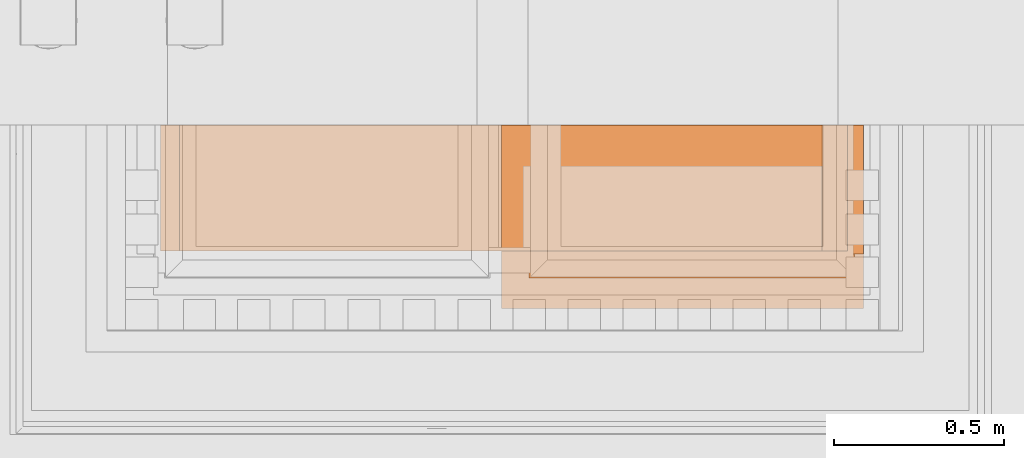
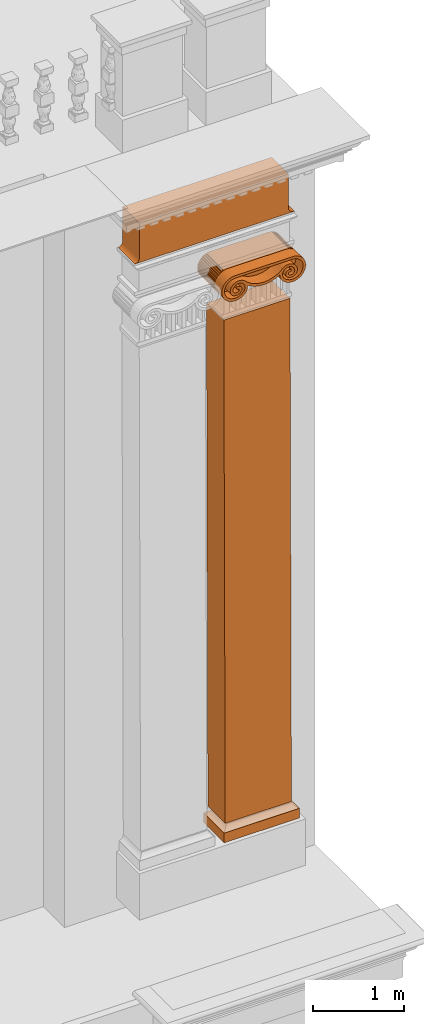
# One storey, part 13 of 44: 5 proxies.
"""IFC2X3 building model written with IfcOpenShell, lengths in metres."""

from ifc_helpers import new_model, entity, si_unit, converted_unit, derived_unit, direction, frame, frame_2d, origin, place, context, subcontext, project, spatial, polyline, circle_curve, parameter, trimmed, segment, composite_curve, rectangle, outline, extrude, material, element, save


model = new_model("IFC2X3")

# Units and contexts
model_context = context("Model", 3, precision=1e-05, world=origin(), true_north=direction((6.12303176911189e-17, 1.0)))
body_context = subcontext(model_context, "Body", "Model", "MODEL_VIEW")
ifc_project = project(units=[si_unit("LENGTHUNIT", "METRE"), si_unit("AREAUNIT", "SQUARE_METRE"), si_unit("VOLUMEUNIT", "CUBIC_METRE"), converted_unit("PLANEANGLEUNIT", "DEGREE", entity("IfcRatioMeasure", 0.0174532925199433), si_unit("PLANEANGLEUNIT", "RADIAN"), dimensions=[0, 0, 0, 0, 0, 0, 0]), si_unit("MASSUNIT", "GRAM", prefix="KILO"), derived_unit("MASSDENSITYUNIT", [(si_unit("MASSUNIT", "GRAM", prefix="KILO"), 1), (si_unit("LENGTHUNIT", "METRE"), -3)]), si_unit("TIMEUNIT", "SECOND"), si_unit("FREQUENCYUNIT", "HERTZ"), si_unit("THERMODYNAMICTEMPERATUREUNIT", "DEGREE_CELSIUS"), derived_unit("THERMALTRANSMITTANCEUNIT", [(si_unit("MASSUNIT", "GRAM", prefix="KILO"), 1), (si_unit("THERMODYNAMICTEMPERATUREUNIT", "KELVIN"), -1), (si_unit("TIMEUNIT", "SECOND"), -3)]), derived_unit("VOLUMETRICFLOWRATEUNIT", [(si_unit("LENGTHUNIT", "METRE"), 3), (si_unit("TIMEUNIT", "SECOND"), -1)]), si_unit("ELECTRICCURRENTUNIT", "AMPERE"), si_unit("ELECTRICVOLTAGEUNIT", "VOLT"), si_unit("POWERUNIT", "WATT"), si_unit("FORCEUNIT", "NEWTON", prefix="KILO"), si_unit("ILLUMINANCEUNIT", "LUX"), si_unit("LUMINOUSFLUXUNIT", "LUMEN"), si_unit("LUMINOUSINTENSITYUNIT", "CANDELA"), derived_unit("USERDEFINED", [(si_unit("MASSUNIT", "GRAM", prefix="KILO"), -1), (si_unit("LENGTHUNIT", "METRE"), -2), (si_unit("TIMEUNIT", "SECOND"), 3), (si_unit("LUMINOUSFLUXUNIT", "LUMEN"), 1)]), derived_unit("LINEARVELOCITYUNIT", [(si_unit("LENGTHUNIT", "METRE"), 1), (si_unit("TIMEUNIT", "SECOND"), -1)]), si_unit("PRESSUREUNIT", "PASCAL"), derived_unit("USERDEFINED", [(si_unit("LENGTHUNIT", "METRE"), -2), (si_unit("MASSUNIT", "GRAM", prefix="KILO"), 1), (si_unit("TIMEUNIT", "SECOND"), -2)])], contexts=[model_context])

# Site, building, storey
site_placement = place(None, origin())
site = spatial("IfcSite", under=ifc_project, at=site_placement, Name="Default", CompositionType="ELEMENT")
building_placement = place(site_placement, origin())
building = spatial("IfcBuilding", under=site, at=building_placement, CompositionType="ELEMENT")
storey_placement = place(building_placement, origin())
storey = spatial("IfcBuildingStorey", under=building, at=storey_placement, Name="Livello 1", CompositionType="ELEMENT", Elevation=0.0)

# Proxies
ifc_material_1 = material(Name="Travertino")
proxy_1_placement = place(storey_placement, frame((10.4175083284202, 0.723372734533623, 21.288288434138)))
element("IfcBuildingElementProxy", 1, at=proxy_1_placement, inside=storey, material=ifc_material_1, Name="Stratigrafia", context=body_context, shape_type="SweptSolid", body=[
    extrude(outline(composite_curve([segment(trimmed(circle_curve(frame_2d((0.0787255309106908, -0.360085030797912), x_axis=(1.0, 0.0)), 0.16781941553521), [parameter(138.334994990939)], [parameter(7.37888686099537e-11)], True, "PARAMETER"), True, "CONTINUOUS"), segment(polyline([(0.246544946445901, -0.360085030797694), (0.201674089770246, 0.387005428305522)]), True, "CONTINUOUS"), segment(trimmed(circle_curve(frame_2d((0.0350610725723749, 0.366919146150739), x_axis=(0.992811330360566, 0.119689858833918)), 0.16781941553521), [parameter(359.999999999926)], [parameter(221.665005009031)], True, "PARAMETER"), True, "CONTINUOUS"), segment(trimmed(circle_curve(frame_2d((0.414185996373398, 0.768509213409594), x_axis=(-0.680862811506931, -0.732410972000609)), 0.720026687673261), [parameter(1.57246623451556e-11)], [parameter(0.524781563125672)], True, "PARAMETER"), True, "CONTINUOUS"), segment(trimmed(circle_curve(frame_2d((0.0654093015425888, 0.385758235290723), x_axis=(-0.675623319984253, -0.737246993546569)), 0.202201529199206), [parameter(5.00746529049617e-11)], [parameter(2.78712703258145)], True, "PARAMETER"), True, "CONTINUOUS"), segment(trimmed(circle_curve(frame_2d((0.00343027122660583, 0.311114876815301), x_axis=(-0.63911629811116, -0.76911010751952)), 0.105180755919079), [parameter(359.999999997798)], [parameter(5.29737023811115)], True, "PARAMETER"), True, "CONTINUOUS"), segment(trimmed(circle_curve(frame_2d((-0.012299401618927, 0.288731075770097), x_axis=(-0.561992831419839, -0.827142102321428)), 0.0778253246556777), [parameter(3.11948803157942e-10)], [parameter(11.8444704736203)], True, "PARAMETER"), True, "CONTINUOUS"), segment(trimmed(circle_curve(frame_2d((-0.00650885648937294, 0.302109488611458), x_axis=(-0.382936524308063, -0.923774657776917)), 0.0924010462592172), [parameter(5.64917400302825e-10)], [parameter(4.23396444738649)], True, "PARAMETER"), True, "CONTINUOUS"), segment(trimmed(circle_curve(frame_2d((0.0100793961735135, 0.315934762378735), x_axis=(0.273943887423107, 0.961745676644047)), 0.111318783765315), [parameter(171.73216175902)], [parameter(203.761085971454)], True, "PARAMETER"), True, "CONTINUOUS"), segment(trimmed(circle_curve(frame_2d((0.351764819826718, 0.0211272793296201), x_axis=(-0.80538962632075, -0.592745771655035)), 0.375004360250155), [parameter(294.170004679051)], [parameter(359.999999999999)], True, "PARAMETER"), True, "CONTINUOUS"), segment(trimmed(circle_curve(frame_2d((0.0478211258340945, -0.312457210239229), x_axis=(0.387085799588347, -0.922043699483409)), 0.111318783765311), [parameter(156.238914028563)], [parameter(188.26783824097)], True, "PARAMETER"), True, "CONTINUOUS"), segment(trimmed(circle_curve(frame_2d((0.0296973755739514, -0.300716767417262), x_axis=(-0.49075017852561, 0.871300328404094)), 0.0924010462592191), [parameter(355.766035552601)], [parameter(359.999999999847)], True, "PARAMETER"), True, "CONTINUOUS"), segment(trimmed(circle_curve(frame_2d((0.0223471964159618, -0.288127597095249), x_axis=(-0.656953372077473, 0.753931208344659)), 0.0778253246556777), [parameter(348.155529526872)], [parameter(359.999999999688)], True, "PARAMETER"), True, "CONTINUOUS"), segment(trimmed(circle_curve(frame_2d((0.0406429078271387, -0.308467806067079), x_axis=(-0.726576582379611, 0.687085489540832)), 0.105180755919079), [parameter(354.702629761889)], [parameter(2.20252139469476e-09)], True, "PARAMETER"), True, "CONTINUOUS"), segment(trimmed(circle_curve(frame_2d((0.11111044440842, -0.375156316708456), x_axis=(-0.759007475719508, 0.651081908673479)), 0.202201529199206), [parameter(357.21287296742)], [parameter(359.999999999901)], True, "PARAMETER"), True, "CONTINUOUS"), segment(trimmed(circle_curve(frame_2d((0.503191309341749, -0.713410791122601), x_axis=(-0.763630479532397, 0.645653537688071)), 0.72002668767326), [parameter(359.475218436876)], [parameter(359.999999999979)], True, "PARAMETER"), True, "CONTINUOUS")], self_intersect=False), holes=[composite_curve([segment(trimmed(circle_curve(frame_2d((0.0296569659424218, -0.266373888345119), x_axis=(0.295331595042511, -0.955394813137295)), 0.160844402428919), [parameter(359.999999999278)], [parameter(5.20756886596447)], True, "PARAMETER"), True, "CONTINUOUS"), segment(trimmed(circle_curve(frame_2d((0.0478211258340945, -0.312457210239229), x_axis=(0.387085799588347, -0.922043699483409)), 0.111318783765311), [parameter(359.999999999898)], [parameter(121.742469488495)], True, "PARAMETER"), True, "CONTINUOUS"), segment(trimmed(circle_curve(frame_2d((0.351764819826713, 0.0211272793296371), x_axis=(-0.701786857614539, -0.712386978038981)), 0.341023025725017), [parameter(357.930960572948)], [parameter(1.17553301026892e-11)], True, "PARAMETER"), False, "CONTINUOUS"), segment(trimmed(circle_curve(frame_2d((0.351764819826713, 0.0211272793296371), x_axis=(-0.701786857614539, -0.712386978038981)), 0.341023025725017), [parameter(276.015284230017)], [parameter(357.930960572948)], True, "PARAMETER"), False, "CONTINUOUS"), segment(trimmed(circle_curve(frame_2d((0.0100793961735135, 0.315934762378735), x_axis=(0.273943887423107, 0.961745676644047)), 0.111318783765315), [parameter(238.257530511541)], [parameter(1.04576637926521e-10)], True, "PARAMETER"), True, "CONTINUOUS"), segment(trimmed(circle_curve(frame_2d((-0.00243848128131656, 0.268008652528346), x_axis=(0.178857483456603, 0.983874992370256)), 0.160844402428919), [parameter(354.792431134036)], [parameter(3.45942571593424e-10)], True, "PARAMETER"), True, "CONTINUOUS"), segment(trimmed(circle_curve(frame_2d((0.0120654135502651, 0.348551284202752), x_axis=(-0.97200284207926, 0.234969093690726)), 0.0790065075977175), [parameter(273.188220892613)], [parameter(2.02537722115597e-11)], True, "PARAMETER"), True, "CONTINUOUS"), segment(trimmed(circle_curve(frame_2d((0.0219940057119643, 0.35202260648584), x_axis=(-0.899948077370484, -0.435997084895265)), 0.0880266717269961), [parameter(324.278715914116)], [parameter(1.66915509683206e-11)], True, "PARAMETER"), True, "CONTINUOUS"), segment(trimmed(circle_curve(frame_2d((0.00683135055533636, 0.344085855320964), x_axis=(-0.691793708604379, -0.722095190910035)), 0.0709226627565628), [parameter(339.191403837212)], [parameter(359.999999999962)], True, "PARAMETER"), True, "CONTINUOUS"), segment(trimmed(circle_curve(frame_2d((-0.00441833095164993, 0.331612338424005), x_axis=(-0.0602856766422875, -0.998181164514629)), 0.0541354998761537), [parameter(319.148653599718)], [parameter(359.999999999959)], True, "PARAMETER"), True, "CONTINUOUS"), segment(polyline([(-0.00768192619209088, 0.277575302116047), (0.004550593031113, 0.27767427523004)]), True, "CONTINUOUS"), segment(polyline([(0.004550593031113, 0.27767427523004), (0.0163739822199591, 0.280802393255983)]), True, "CONTINUOUS"), segment(polyline([(0.0163739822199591, 0.280802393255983), (0.0270458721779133, 0.28676324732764)]), True, "CONTINUOUS"), segment(polyline([(0.0270458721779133, 0.28676324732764), (0.0358961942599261, 0.29518256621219)]), True, "CONTINUOUS"), segment(polyline([(0.0358961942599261, 0.29518256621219), (0.0423692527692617, 0.305531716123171)]), True, "CONTINUOUS"), segment(polyline([(0.0423692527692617, 0.305531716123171), (0.0460586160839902, 0.317160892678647)]), True, "CONTINUOUS"), segment(polyline([(0.0460586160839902, 0.317160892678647), (0.046732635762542, 0.329339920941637)]), True, "CONTINUOUS"), segment(polyline([(0.046732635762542, 0.329339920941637), (0.0443489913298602, 0.341304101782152)]), True, "CONTINUOUS"), segment(trimmed(circle_curve(frame_2d((0.0290576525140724, 0.333702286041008), x_axis=(-0.983154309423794, -0.182777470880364)), 0.0170766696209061), [parameter(195.90186506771)], [parameter(3.20599911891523e-12)], True, "PARAMETER"), True, "CONTINUOUS"), segment(trimmed(circle_curve(frame_2d((-0.00183320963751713, 0.325926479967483), x_axis=(0.949609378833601, 0.313435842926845)), 0.0148501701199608), [parameter(257.204928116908)], [parameter(360.0)], True, "PARAMETER"), False, "CONTINUOUS"), segment(trimmed(circle_curve(frame_2d((-0.0019616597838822, 0.326174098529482), x_axis=(0.102214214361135, -0.994762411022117)), 0.0151092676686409), [parameter(347.420423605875)], [parameter(4.57389207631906e-10)], True, "PARAMETER"), False, "CONTINUOUS"), segment(trimmed(circle_curve(frame_2d((-0.00394145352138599, 0.332308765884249), x_axis=(0.010103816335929, -0.999948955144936)), 0.0211414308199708), [parameter(315.114326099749)], [parameter(359.999999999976)], True, "PARAMETER"), False, "CONTINUOUS"), segment(trimmed(circle_curve(frame_2d((0.00683135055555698, 0.344085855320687), x_axis=(-0.688455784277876, -0.725278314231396)), 0.037097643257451), [parameter(338.739254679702)], [parameter(2.05438387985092e-10)], True, "PARAMETER"), False, "CONTINUOUS"), segment(trimmed(circle_curve(frame_2d((0.0219940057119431, 0.352022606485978), x_axis=(-0.898883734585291, -0.43818721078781)), 0.0542016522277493), [parameter(325.321462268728)], [parameter(1.02286638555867e-10)], True, "PARAMETER"), False, "CONTINUOUS"), segment(trimmed(circle_curve(frame_2d((0.0120654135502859, 0.348551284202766), x_axis=(-0.966121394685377, 0.258088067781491)), 0.0451814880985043), [parameter(274.521210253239)], [parameter(2.59533262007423e-11)], True, "PARAMETER"), False, "CONTINUOUS"), segment(trimmed(circle_curve(frame_2d((-0.00243848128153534, 0.268008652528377), x_axis=(0.17861447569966, 0.983919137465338)), 0.127019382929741), [parameter(354.831611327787)], [parameter(359.999999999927)], True, "PARAMETER"), False, "CONTINUOUS"), segment(trimmed(circle_curve(frame_2d((0.00992627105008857, 0.315856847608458), x_axis=(0.276878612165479, 0.960904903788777)), 0.0776109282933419), [parameter(169.426101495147)], [parameter(1.4538951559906e-10)], True, "PARAMETER"), False, "CONTINUOUS"), segment(trimmed(circle_curve(frame_2d((-0.00650885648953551, 0.302109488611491), x_axis=(-0.38373334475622, -0.923443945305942)), 0.0585760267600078), [parameter(2.60703706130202e-10)], [parameter(4.28424685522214)], True, "PARAMETER"), False, "CONTINUOUS"), segment(trimmed(circle_curve(frame_2d((-0.0122994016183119, 0.288731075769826), x_axis=(-0.56074832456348, -0.827986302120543)), 0.0440003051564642), [parameter(3.41464350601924e-11)], [parameter(11.8204528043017)], True, "PARAMETER"), False, "CONTINUOUS"), segment(trimmed(circle_curve(frame_2d((0.0034712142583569, 0.311169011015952), x_axis=(-0.639149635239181, -0.769082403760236)), 0.071423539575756), [parameter(359.999999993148)], [parameter(5.23917008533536)], True, "PARAMETER"), False, "CONTINUOUS"), segment(trimmed(circle_curve(frame_2d((0.0654093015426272, 0.385758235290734), x_axis=(-0.67576849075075, -0.737113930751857)), 0.168376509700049), [parameter(9.52130849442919e-11)], [parameter(2.79841011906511)], True, "PARAMETER"), False, "CONTINUOUS"), segment(trimmed(circle_curve(frame_2d((0.41418599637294, 0.768509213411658), x_axis=(-0.681339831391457, -0.731967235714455)), 0.68620166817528), [parameter(1.32311074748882e-12)], [parameter(0.565071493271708)], True, "PARAMETER"), False, "CONTINUOUS"), segment(trimmed(circle_curve(frame_2d((0.0350610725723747, 0.366919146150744), x_axis=(0.992811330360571, 0.119689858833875)), 0.133994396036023), [parameter(360.0)], [parameter(221.839978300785)], True, "PARAMETER"), False, "CONTINUOUS"), segment(polyline([(0.16809222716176, 0.382956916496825), (0.212470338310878, -0.351910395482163)]), True, "CONTINUOUS"), segment(trimmed(circle_curve(frame_2d((0.0787255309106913, -0.360085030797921), x_axis=(1.0, 0.0)), 0.133994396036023), [parameter(138.160021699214)], [parameter(3.49763230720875)], True, "PARAMETER"), False, "CONTINUOUS"), segment(trimmed(circle_curve(frame_2d((0.503191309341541, -0.713410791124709), x_axis=(-0.764050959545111, 0.645155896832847)), 0.68620166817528), [parameter(359.434928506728)], [parameter(359.999999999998)], True, "PARAMETER"), False, "CONTINUOUS"), segment(trimmed(circle_curve(frame_2d((0.11111044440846, -0.375156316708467), x_axis=(-0.759135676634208, 0.65093242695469)), 0.168376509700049), [parameter(357.201589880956)], [parameter(359.999999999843)], True, "PARAMETER"), False, "CONTINUOUS"), segment(trimmed(circle_curve(frame_2d((0.0406900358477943, -0.308516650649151), x_axis=(-0.726606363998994, 0.687053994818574)), 0.0714235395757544), [parameter(354.760829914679)], [parameter(6.52532776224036e-09)], True, "PARAMETER"), False, "CONTINUOUS"), segment(trimmed(circle_curve(frame_2d((0.02234719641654, -0.288127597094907), x_axis=(-0.655818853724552, 0.754918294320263)), 0.0440003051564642), [parameter(348.179547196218)], [parameter(359.999999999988)], True, "PARAMETER"), False, "CONTINUOUS"), segment(trimmed(circle_curve(frame_2d((0.0296973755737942, -0.300716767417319), x_axis=(-0.491501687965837, 0.870876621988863)), 0.0585760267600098), [parameter(355.715753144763)], [parameter(1.29664853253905e-10)], True, "PARAMETER"), False, "CONTINUOUS"), segment(trimmed(circle_curve(frame_2d((0.0476597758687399, -0.312398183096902), x_axis=(0.389898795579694, -0.92085771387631)), 0.0776109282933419), [parameter(359.999999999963)], [parameter(190.573898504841)], True, "PARAMETER"), False, "CONTINUOUS"), segment(trimmed(circle_curve(frame_2d((0.0296569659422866, -0.266373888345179), x_axis=(0.295095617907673, -0.955467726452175)), 0.127019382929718), [parameter(1.52310402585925e-10)], [parameter(5.1683886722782)], True, "PARAMETER"), False, "CONTINUOUS"), segment(trimmed(circle_curve(frame_2d((0.0536967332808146, -0.344601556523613), x_axis=(-0.928285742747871, -0.371867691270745)), 0.0451814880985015), [parameter(359.999999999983)], [parameter(85.4787897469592)], True, "PARAMETER"), False, "CONTINUOUS"), segment(trimmed(circle_curve(frame_2d((0.0639694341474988, -0.346859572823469), x_axis=(-0.944868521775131, 0.327449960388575)), 0.0542016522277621), [parameter(359.999999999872)], [parameter(34.6785377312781)], True, "PARAMETER"), False, "CONTINUOUS"), segment(trimmed(circle_curve(frame_2d((0.0479658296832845, -0.340794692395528), x_axis=(-0.770315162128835, 0.63766335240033)), 0.0370976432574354), [parameter(359.999999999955)], [parameter(21.2607453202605)], True, "PARAMETER"), False, "CONTINUOUS"), segment(trimmed(circle_curve(frame_2d((0.0358608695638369, -0.330391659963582), x_axis=(-0.109652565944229, 0.993969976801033)), 0.0211414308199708), [parameter(359.999999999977)], [parameter(44.8856739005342)], True, "PARAMETER"), False, "CONTINUOUS"), segment(trimmed(circle_curve(frame_2d((0.0370921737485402, -0.324064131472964), x_axis=(-0.0175835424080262, 0.999845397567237)), 0.0151092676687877), [parameter(359.999999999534)], [parameter(12.5795763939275)], True, "PARAMETER"), False, "CONTINUOUS"), segment(trimmed(circle_curve(frame_2d((0.0371900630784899, -0.323802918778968), x_axis=(0.980298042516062, -0.197524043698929)), 0.0148501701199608), [parameter(3.05333249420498e-13)], [parameter(102.795071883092)], True, "PARAMETER"), False, "CONTINUOUS"), segment(trimmed(circle_curve(frame_2d((0.0687895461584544, -0.327825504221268), x_axis=(-0.997963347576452, 0.0637899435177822)), 0.0170766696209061), [parameter(359.999999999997)], [parameter(164.098134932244)], True, "PARAMETER"), True, "CONTINUOUS"), segment(polyline([(0.0848808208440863, -0.333542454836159), (0.0858153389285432, -0.321378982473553)]), True, "CONTINUOUS"), segment(polyline([(0.0858153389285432, -0.321378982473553), (0.0836884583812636, -0.30936817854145)]), True, "CONTINUOUS"), segment(polyline([(0.0836884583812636, -0.30936817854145), (0.078633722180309, -0.298264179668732)]), True, "CONTINUOUS"), segment(polyline([(0.078633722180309, -0.298264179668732), (0.0709685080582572, -0.288764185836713)]), True, "CONTINUOUS"), segment(polyline([(0.0709685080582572, -0.288764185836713), (0.0611741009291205, -0.28146468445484)]), True, "CONTINUOUS"), segment(polyline([(0.0611741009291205, -0.28146468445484), (0.0498654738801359, -0.276823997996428)]), True, "CONTINUOUS"), segment(polyline([(0.0498654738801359, -0.276823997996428), (0.037752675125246, -0.275133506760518)]), True, "CONTINUOUS"), segment(polyline([(0.037752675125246, -0.275133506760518), (0.0255962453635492, -0.276499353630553)]), True, "CONTINUOUS"), segment(trimmed(circle_curve(frame_2d((0.0353040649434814, -0.329757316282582), x_axis=(-0.179324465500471, 0.983789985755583)), 0.054135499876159), [parameter(4.21868772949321e-11)], [parameter(40.8513464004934)], True, "PARAMETER"), True, "CONTINUOUS"), segment(trimmed(circle_curve(frame_2d((0.0479658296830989, -0.340794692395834), x_axis=(-0.773248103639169, 0.634103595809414)), 0.0709226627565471), [parameter(1.98110389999e-10)], [parameter(20.8085961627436)], True, "PARAMETER"), True, "CONTINUOUS"), segment(trimmed(circle_curve(frame_2d((0.0639694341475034, -0.34685957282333), x_axis=(-0.945663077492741, 0.325148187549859)), 0.0880266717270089), [parameter(359.999999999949)], [parameter(35.7212840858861)], True, "PARAMETER"), True, "CONTINUOUS"), segment(trimmed(circle_curve(frame_2d((0.0536967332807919, -0.344601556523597), x_axis=(-0.936892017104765, -0.349618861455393)), 0.0790065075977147), [parameter(359.999999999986)], [parameter(86.8117791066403)], True, "PARAMETER"), True, "CONTINUOUS")], self_intersect=False)]), frame((0.53345877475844, 0.0, 0.11240374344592), z_axis=(0.0, 1.0, 0.0), x_axis=(-0.0599527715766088, 0.0, 0.998201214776)), (0.0, 0.0, 1.0), 0.54),
])
proxy_2_placement = place(storey_placement, frame((10.4175927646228, 0.883372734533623, 21.2883884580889)))
element("IfcBuildingElementProxy", 2, at=proxy_2_placement, inside=storey, material=ifc_material_1, Name="Stratigrafia", context=body_context, shape_type="SweptSolid", body=[
    extrude(outline(composite_curve([segment(polyline([(-0.374218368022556, -0.123559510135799), (0.374218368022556, -0.123559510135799)]), True, "CONTINUOUS"), segment(trimmed(circle_curve(frame_2d((0.36415712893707, 0.0439580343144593), x_axis=(0.0599527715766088, -0.998201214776)), 0.16781941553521), [parameter(359.999999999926)], [parameter(238.247282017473)], True, "PARAMETER"), True, "CONTINUOUS"), segment(polyline([(0.216417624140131, 0.123559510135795), (-0.216417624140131, 0.123559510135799)]), True, "CONTINUOUS"), segment(trimmed(circle_curve(frame_2d((-0.364157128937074, 0.0439580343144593), x_axis=(-0.0599527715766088, -0.998201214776)), 0.16781941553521), [parameter(121.752717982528)], [parameter(7.45013128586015e-11)], True, "PARAMETER"), True, "CONTINUOUS")], self_intersect=False)), frame((0.533374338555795, 0.0, 0.213257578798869), z_axis=(0.0, 1.0, 0.0), x_axis=(1.0, 0.0, 0.0)), (0.0, 0.0, 1.0), 0.38),
])
proxy_3_placement = place(storey_placement, frame((9.41563341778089, 0.893372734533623, 22.0858387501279)))
element("IfcBuildingElementProxy", 3, at=proxy_3_placement, inside=storey, material=ifc_material_1, Name="Stratigrafia", context=body_context, shape_type="SweptSolid", body=[
    extrude(outline(composite_curve([segment(polyline([(-0.331614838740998, 0.941141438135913), (-0.331614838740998, -0.947546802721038)]), True, "CONTINUOUS"), segment(polyline([(-0.331614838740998, -0.947546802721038), (0.131686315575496, -0.947546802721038)]), True, "CONTINUOUS"), segment(trimmed(circle_curve(frame_2d((0.13591131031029, -1.00733902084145), x_axis=(0.997512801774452, -0.0704855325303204)), 0.059941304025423), [parameter(8.0837501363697)], [parameter(98.0837501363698)], True, "PARAMETER"), False, "CONTINUOUS"), segment(polyline([(0.195703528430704, -1.00311402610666), (0.195703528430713, 1.01592475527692)]), True, "CONTINUOUS"), segment(trimmed(circle_curve(frame_2d((0.110522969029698, 1.02118149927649), x_axis=(0.998101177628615, -0.06159577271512)), 0.0853426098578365), [parameter(293.834950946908)], [parameter(9.40426408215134e-11)], True, "PARAMETER"), False, "CONTINUOUS"), segment(polyline([(0.140136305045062, 0.941141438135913), (-0.331614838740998, 0.941141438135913)]), True, "CONTINUOUS")], self_intersect=False)), frame((1.00470929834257, 0.0, 0.197298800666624), z_axis=(0.0, -1.0, 0.0), x_axis=(0.0, 0.0, -1.0)), (0.0, 0.0, -1.0), 0.37),
])
ifc_material_2 = material(Name="Piperno")
proxy_4_placement = place(storey_placement, frame((10.5005349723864, 0.813372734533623, 14.0045192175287)))
element("IfcBuildingElementProxy", 4, at=proxy_4_placement, inside=storey, material=ifc_material_2, Name="Stratigrafia", context=body_context, shape_type="SweptSolid", body=[
    extrude(rectangle(XDim=0.129364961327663, YDim=0.45, at=frame_2d((0.0, 0.0), x_axis=(0.0, 1.0))), frame((0.0, 0.225, 0.0646824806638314), z_axis=(1.0, 0.0, 0.0), x_axis=(0.0, 1.0, 0.0)), (0.0, 0.0, 1.0), 0.956412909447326),
])
proxy_5_placement = place(storey_placement, frame((10.5364149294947, 0.883372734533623, 14.2048135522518)))
element("IfcBuildingElementProxy", 5, at=proxy_5_placement, inside=storey, material=ifc_material_2, Name="Stratigrafia", context=body_context, shape_type="SweptSolid", body=[
    extrude(rectangle(XDim=6.74573124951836, YDim=0.38, at=frame_2d((-1.2490009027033e-16, 0.0), x_axis=(0.0, 1.0))), frame((0.00875481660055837, 0.19, 3.37285426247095), z_axis=(0.999996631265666, 0.0, 0.00259566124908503), x_axis=(0.0, 1.0, 0.0)), (0.0, -0.00259566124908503, 0.999996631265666), 0.838920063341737),
])

save(model, "model.ifc")
